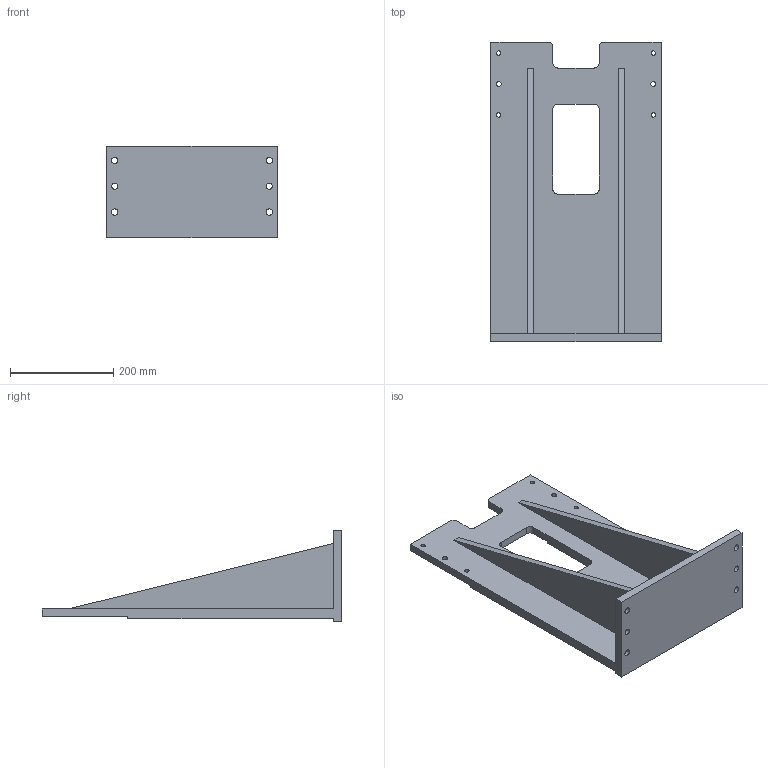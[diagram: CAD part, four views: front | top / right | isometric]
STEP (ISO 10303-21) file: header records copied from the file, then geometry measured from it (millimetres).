
FILE_DESCRIPTION(/* description */ ('DB4-RISER'),/* implementation_level */ '2;1');
FILE_NAME(/* name */ 'C:\Vault Workspace\CAD\Welker\Shot Pin\DBL40\S01896 DB4 Mounting Accessories\S01896E02\S01896E02-500.stp',/* time_stamp */ '2016-05-04T13:51:48-04:00',/* author */ ('klabrecque'),/* organization */ (''),/* preprocessor_version */ 'ST-DEVELOPER v15.2',/* originating_system */ 'Autodesk Inventor 2014',/* authorisation */ '');
FILE_SCHEMA (('AUTOMOTIVE_DESIGN { 1 0 10303 214 3 1 1 }'));
Length unit declared in the file: millimetre
Products named in the file (1): S01896E02-500
Bounding box: 330 x 581 x 177.8 mm (x, y, z)
Volume: 4735556.5 mm3; surface area: 628443.4 mm2
Topology: 1 solids, 1 shells, 47 faces, 150 edges, 104 vertices
Faces by surface type: plane 29, cylinder 18
Full cylindrical faces by diameter (mm): 8.376 x4, 10 x2, 12 x2, 12.5 x4
Entity records: 1628 total; most frequent: CARTESIAN_POINT 266, DIRECTION 258, ORIENTED_EDGE 252, EDGE_CURVE 126, VERTEX_POINT 92, LINE 90, VECTOR 90, EDGE_LOOP 84
